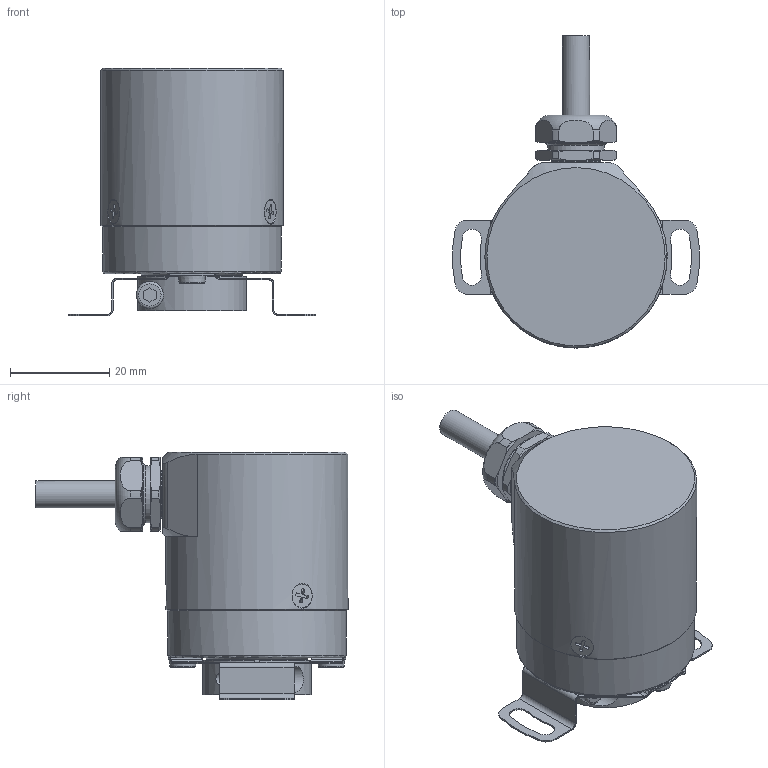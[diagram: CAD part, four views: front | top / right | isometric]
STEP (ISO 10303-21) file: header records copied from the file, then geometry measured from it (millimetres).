
FILE_DESCRIPTION(/* description */ ('Unknown'),/* implementation_level */ '2;1');
FILE_NAME(/* name */ 'EA_EAM_36F_10mm_PR',/* time_stamp */ '2019-06-26T13:49:20+02:00',/* author */ ('Unknown'),/* organization */ ('Unknown'),/* preprocessor_version */ 'ST-DEVELOPER v16.7',/* originating_system */ 'DEX',/* authorisation */ $);
FILE_SCHEMA (('AUTOMOTIVE_DESIGN {1 0 10303 214 3 1 1}'));
Length unit declared in the file: millimetre
Products named in the file (1): EA_EAM_36F_10mm_PR
Bounding box: 49.86 x 63.01 x 50 mm (x, y, z)
Volume: 26150.3 mm3; surface area: 21467.3 mm2
Topology: 1 solids, 15 shells, 534 faces, 1414 edges, 935 vertices
Faces by surface type: plane 231, cylinder 180, cone 100, torus 23
Full cylindrical faces by diameter (mm): 1 x1, 1.221 x2, 1.45 x1, 1.6 x2, 2.013 x3, 2.459 x2, 2.5 x3, 2.7 x3, 3 x6, 3.2 x3, 3.242 x1, 4 x1, 5.5 x2, 7.5 x1, 7.7 x1, 8 x2, 10 x2, 11.5 x1, 11.8 x1, 11.89 x1, 12 x2, 12.5 x1, 14.5 x4, 18 x1, 18.5 x4, 21 x3, 21.1 x2, 24 x1, 31.3 x1, 33.6 x1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
Entity records: 19431 total; most frequent: CARTESIAN_POINT 3467, DIRECTION 2510, ORIENTED_EDGE 2376, EDGE_CURVE 1188, AXIS2_PLACEMENT_3D 993, VERTEX_POINT 849, FACE_BOUND 741, EDGE_LOOP 733
